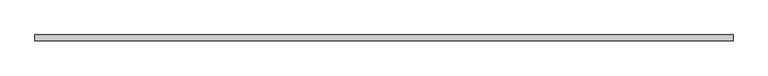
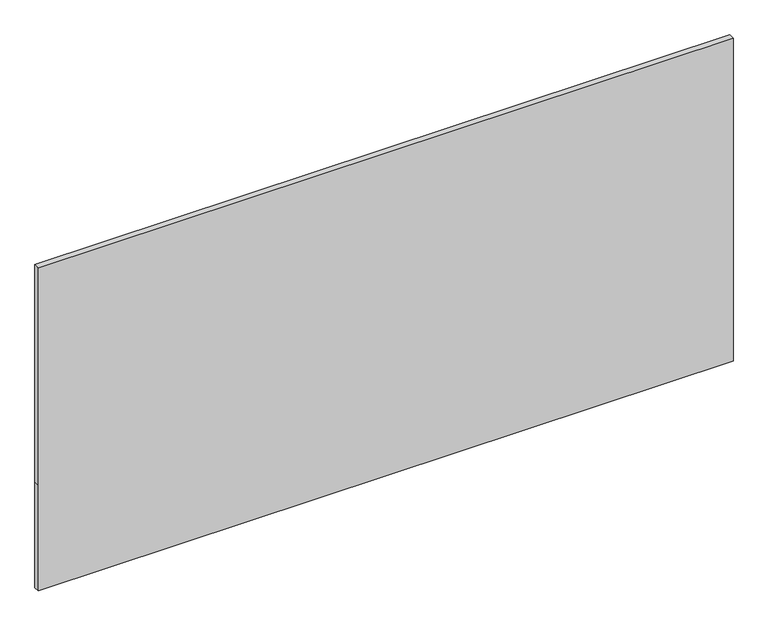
"""IFC4 building model written with IfcOpenShell, lengths in millimetres: plate geometry, Системная панель : С остеклением."""

from ifc_helpers import new_model, si_unit, frame, origin, place, context, project, spatial, polyline, outline, extrude, source, transform, mapped, element, save


def plate_380b637c(model_context):
    return source(origin(), model_context, "Body", "SweptSolid", [
        extrude(outline(polyline([(0.0, -1475.0), (0.0, 1475.0), (475.0, 1475.0), (1450.0, 1475.0), (1450.0, -1475.0), (475.0, -1475.0), (0.0, -1475.0)])), frame((0.0, -49.5, 0.0), z_axis=(0.0, 1.0, 0.0), x_axis=(0.0, 0.0, 1.0)), (0.0, 0.0, 1.0), 25.0),
    ])


if __name__ == "__main__":
    model = new_model("IFC4")
    model_context = context("Model", 3, world=origin())
    ifc_project = project(units=[si_unit("LENGTHUNIT", "METRE", prefix="MILLI")], contexts=[model_context])
    site = spatial("IfcSite", under=ifc_project)
    building = spatial("IfcBuilding", under=site)
    placement = place(None, origin())
    plate_shape = plate_380b637c(model_context)
    element("IfcPlate", 1, ObjectType="Системная панель : С остеклением", at=placement, inside=building, context=model_context, shape_type="MappedRepresentation", body=[
        mapped(plate_shape, transform((0.0, 0.0, 0.0), x_axis=(1.0, 0.0, 0.0), y_axis=(0.0, 1.0, 0.0), z_axis=(0.0, 0.0, 1.0))),
    ])
    save(model, "model.ifc")
